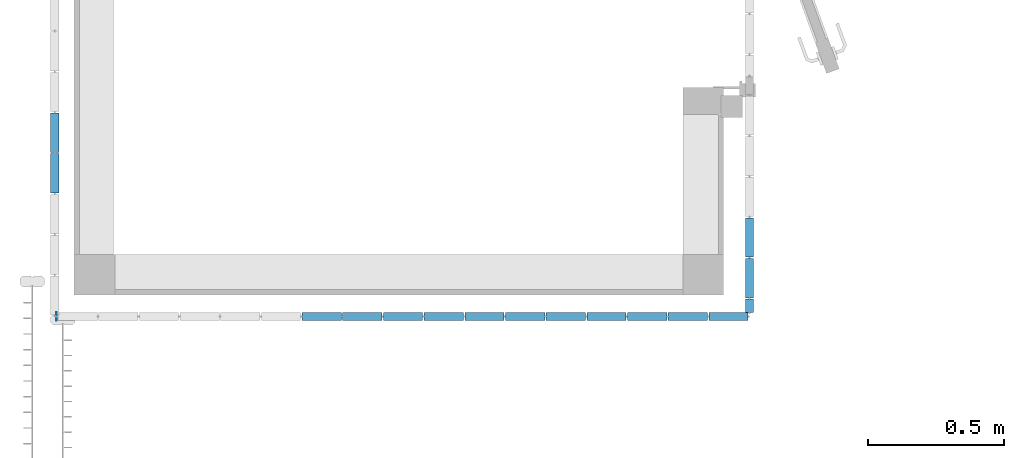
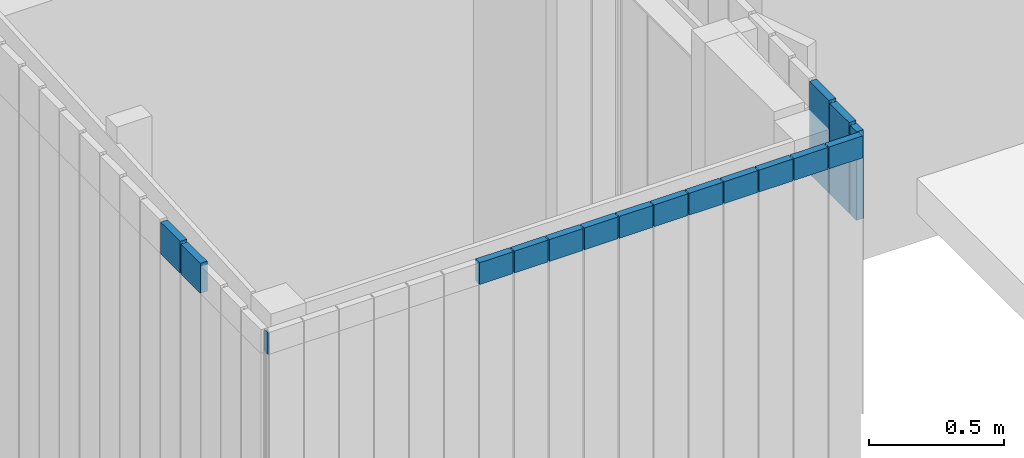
# One storey, part 71 of 81: 17 walls, 3 elements without a shape of their own.
"""IFC2X3 building model written with IfcOpenShell, lengths in metres."""

from ifc_helpers import new_model, entity, si_unit, converted_unit, derived_unit, direction, frame, frame_2d, origin, place, context, subcontext, project, spatial, rectangle, extrude, material, layer, layer_set, layer_usage, type_object, element, aggregate, save


model = new_model("IFC2X3")

# Units and contexts
model_context = context("Model", 3, precision=1e-05, world=origin(), true_north=direction((6.12303176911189e-17, 1.0)))
body_context = subcontext(model_context, "Body", "Model", "MODEL_VIEW")
ifc_project = project(units=[si_unit("LENGTHUNIT", "METRE"), si_unit("AREAUNIT", "SQUARE_METRE"), si_unit("VOLUMEUNIT", "CUBIC_METRE"), converted_unit("PLANEANGLEUNIT", "DEGREE", entity("IfcRatioMeasure", 0.0174532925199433), si_unit("PLANEANGLEUNIT", "RADIAN"), dimensions=[0, 0, 0, 0, 0, 0, 0]), si_unit("MASSUNIT", "GRAM", prefix="KILO"), derived_unit("MASSDENSITYUNIT", [(si_unit("MASSUNIT", "GRAM", prefix="KILO"), 1), (si_unit("LENGTHUNIT", "METRE"), -3)]), derived_unit("MOMENTOFINERTIAUNIT", [(si_unit("LENGTHUNIT", "METRE"), 4)]), si_unit("TIMEUNIT", "SECOND"), si_unit("FREQUENCYUNIT", "HERTZ"), si_unit("THERMODYNAMICTEMPERATUREUNIT", "DEGREE_CELSIUS"), derived_unit("THERMALTRANSMITTANCEUNIT", [(si_unit("MASSUNIT", "GRAM", prefix="KILO"), 1), (si_unit("THERMODYNAMICTEMPERATUREUNIT", "KELVIN"), -1), (si_unit("TIMEUNIT", "SECOND"), -3)]), derived_unit("VOLUMETRICFLOWRATEUNIT", [(si_unit("LENGTHUNIT", "METRE"), 3), (si_unit("TIMEUNIT", "SECOND"), -1)]), si_unit("ELECTRICCURRENTUNIT", "AMPERE"), si_unit("ELECTRICVOLTAGEUNIT", "VOLT"), si_unit("POWERUNIT", "WATT"), si_unit("FORCEUNIT", "NEWTON", prefix="KILO"), si_unit("ILLUMINANCEUNIT", "LUX"), si_unit("LUMINOUSFLUXUNIT", "LUMEN"), si_unit("LUMINOUSINTENSITYUNIT", "CANDELA"), derived_unit("USERDEFINED", [(si_unit("MASSUNIT", "GRAM", prefix="KILO"), -1), (si_unit("LENGTHUNIT", "METRE"), -2), (si_unit("TIMEUNIT", "SECOND"), 3), (si_unit("LUMINOUSFLUXUNIT", "LUMEN"), 1)]), derived_unit("LINEARVELOCITYUNIT", [(si_unit("LENGTHUNIT", "METRE"), 1), (si_unit("TIMEUNIT", "SECOND"), -1)]), si_unit("PRESSUREUNIT", "PASCAL"), derived_unit("USERDEFINED", [(si_unit("LENGTHUNIT", "METRE"), -2), (si_unit("MASSUNIT", "GRAM", prefix="KILO"), 1), (si_unit("TIMEUNIT", "SECOND"), -2)]), derived_unit("LINEARFORCEUNIT", [(si_unit("MASSUNIT", "GRAM", prefix="KILO"), 1), (si_unit("LENGTHUNIT", "METRE"), 1), (si_unit("TIMEUNIT", "SECOND"), -2), (si_unit("LENGTHUNIT", "METRE"), -1)]), derived_unit("PLANARFORCEUNIT", [(si_unit("MASSUNIT", "GRAM", prefix="KILO"), 1), (si_unit("LENGTHUNIT", "METRE"), 1), (si_unit("TIMEUNIT", "SECOND"), -2), (si_unit("LENGTHUNIT", "METRE"), -2)])], contexts=[model_context])

# Site, building, storey
site_placement = place(None, origin())
site = spatial("IfcSite", under=ifc_project, at=site_placement, Name="Surface", CompositionType="ELEMENT")
building_placement = place(site_placement, origin())
building = spatial("IfcBuilding", under=site, at=building_placement, CompositionType="ELEMENT")
storey_placement = place(building_placement, origin())
storey = spatial("IfcBuildingStorey", under=building, at=storey_placement, Name="01 RDC", CompositionType="ELEMENT", Elevation=-1.94916083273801e-14)

# Curtain wall, walls
curtain_wall_type = type_object("IfcCurtainWallType", Name="Mur-rideau:1m x 2m", PredefinedType="NOTDEFINED")
curtain_wall_1_placement = place(storey_placement, origin())
curtain_wall_1 = element("IfcCurtainWall", 1, at=curtain_wall_1_placement, inside=storey, type_object=curtain_wall_type, Name="Mur-rideau:1m x 2m", ObjectType="Mur-rideau:1m x 2m")
ifc_material = material(Name="Résineux, bois de construction")
ifc_layer = layer(ifc_material, 0.03)
ifc_layer_set = layer_set([ifc_layer], Name="Mur-rideau:1m x 2m")
ifc_layer_usage_1 = layer_usage(ifc_layer_set, "AXIS2", "NEGATIVE", 0.015)
wall_type = type_object("IfcWallType", Name="Mur de base:Panneau Triply 30 mm", PredefinedType="NOTDEFINED", material=ifc_layer_set)
wall_1_placement = place(storey_placement, frame((8.02156158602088, -5.94595163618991, 2.0), z_axis=(0.0, 0.0, 1.0), x_axis=(0.0, -1.0, 0.0)))
wall_1 = element("IfcWallStandardCase", 2, at=wall_1_placement, type_object=wall_type, material=ifc_layer_usage_1, Name="Mur de base:Panneau Triply 30 mm", ObjectType="Mur de base:Panneau Triply 30 mm", context=body_context, shape_type="SweptSolid", body=[
    extrude(rectangle(XDim=0.145018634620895, YDim=0.0299999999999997, at=frame_2d((0.0725093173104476, 1.17961196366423e-16), x_axis=(-1.0, 0.0))), origin(), (0.0, 0.0, 1.0), 0.421014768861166),
])
ifc_layer_usage_2 = layer_usage(ifc_layer_set, "AXIS2", "NEGATIVE", 0.015)
wall_2_placement = place(storey_placement, frame((8.02156158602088, -6.09595163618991, 2.0), z_axis=(0.0, 0.0, 1.0), x_axis=(0.0, -1.0, 0.0)))
wall_2 = element("IfcWallStandardCase", 3, at=wall_2_placement, type_object=wall_type, material=ifc_layer_usage_2, Name="Mur de base:Panneau Triply 30 mm", ObjectType="Mur de base:Panneau Triply 30 mm", context=body_context, shape_type="SweptSolid", body=[
    extrude(rectangle(XDim=0.145018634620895, YDim=0.0299999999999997, at=frame_2d((0.0725093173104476, -4.24139889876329e-16), x_axis=(-1.0, 0.0))), origin(), (0.0, 0.0, 1.0), 0.411840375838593),
])
ifc_layer_usage_3 = layer_usage(ifc_layer_set, "AXIS2", "NEGATIVE", 0.015)
wall_3_placement = place(storey_placement, frame((8.02156158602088, -6.24595163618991, 2.0), z_axis=(0.0, 0.0, 1.0), x_axis=(0.0, -1.0, 0.0)))
wall_3 = element("IfcWallStandardCase", 4, at=wall_3_placement, type_object=wall_type, material=ifc_layer_usage_3, Name="Mur de base:Panneau Triply 30 mm", ObjectType="Mur de base:Panneau Triply 30 mm", context=body_context, shape_type="SweptSolid", body=[
    extrude(rectangle(XDim=0.0487593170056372, YDim=0.0299999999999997, at=frame_2d((0.0243796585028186, 3.90312782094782e-17), x_axis=(-1.0, 0.0))), origin(), (0.0, 0.0, 1.0), 0.40266598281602),
])
aggregate(curtain_wall_1, [wall_1, wall_2, wall_3])

curtain_wall_2_placement = place(storey_placement, origin())
curtain_wall_2 = element("IfcCurtainWall", 5, at=curtain_wall_2_placement, inside=storey, type_object=curtain_wall_type, Name="Mur-rideau:1m x 2m", ObjectType="Mur-rideau:1m x 2m")
ifc_layer_usage_4 = layer_usage(ifc_layer_set, "AXIS2", "POSITIVE", -0.015)
wall_4_placement = place(storey_placement, frame((5.45983615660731, -5.8547202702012, 2.3), z_axis=(0.0, 0.0, 1.0), x_axis=(0.0, 1.0, 0.0)))
wall_4 = element("IfcWallStandardCase", 6, at=wall_4_placement, type_object=wall_type, material=ifc_layer_usage_4, Name="Mur de base:Panneau Triply 30 mm", ObjectType="Mur de base:Panneau Triply 30 mm", context=body_context, shape_type="SweptSolid", body=[
    extrude(rectangle(XDim=0.145018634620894, YDim=0.0299999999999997, at=frame_2d((0.072509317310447, 1.24032728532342e-16), x_axis=(-1.0, 0.0))), origin(), (0.0, 0.0, 1.0), 0.135464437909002),
])
ifc_layer_usage_5 = layer_usage(ifc_layer_set, "AXIS2", "POSITIVE", -0.015)
wall_5_placement = place(storey_placement, frame((5.45983615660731, -5.7047202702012, 2.3), z_axis=(0.0, 0.0, 1.0), x_axis=(0.0, 1.0, 0.0)))
wall_5 = element("IfcWallStandardCase", 7, at=wall_5_placement, type_object=wall_type, material=ifc_layer_usage_5, Name="Mur de base:Panneau Triply 30 mm", ObjectType="Mur de base:Panneau Triply 30 mm", context=body_context, shape_type="SweptSolid", body=[
    extrude(rectangle(XDim=0.145018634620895, YDim=0.0299999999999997, at=frame_2d((0.0725093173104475, 1.24032728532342e-16), x_axis=(-1.0, 0.0))), origin(), (0.0, 0.0, 1.0), 0.144638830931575),
])
aggregate(curtain_wall_2, [wall_4, wall_5])

curtain_wall_3_placement = place(storey_placement, origin())
curtain_wall_3 = element("IfcCurtainWall", 8, at=curtain_wall_3_placement, inside=storey, type_object=curtain_wall_type, Name="Mur-rideau:1m x 2m", ObjectType="Mur-rideau:1m x 2m")
ifc_layer_usage_6 = layer_usage(ifc_layer_set, "AXIS2", "POSITIVE", -0.015)
wall_6_placement = place(storey_placement, frame((8.01656158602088, -6.30971095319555, 2.29999999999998), z_axis=(0.0, 0.0, 1.0), x_axis=(-1.0, 0.0, 0.0)))
wall_6 = element("IfcWallStandardCase", 9, at=wall_6_placement, type_object=wall_type, material=ifc_layer_usage_6, Name="Mur de base:Panneau Triply 30 mm", ObjectType="Mur de base:Panneau Triply 30 mm", context=body_context, shape_type="SweptSolid", body=[
    extrude(rectangle(XDim=0.1450000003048, YDim=0.0299999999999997, at=frame_2d((0.0725000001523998, 2.25514051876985e-16), x_axis=(-1.0, 0.0))), origin(), (0.0, 0.0, 1.0), 0.0992255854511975),
])
ifc_layer_usage_7 = layer_usage(ifc_layer_set, "AXIS2", "POSITIVE", -0.015)
wall_7_placement = place(storey_placement, frame((7.86656158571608, -6.30971095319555, 2.29999999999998), z_axis=(0.0, 0.0, 1.0), x_axis=(-1.0, 0.0, 0.0)))
wall_7 = element("IfcWallStandardCase", 10, at=wall_7_placement, type_object=wall_type, material=ifc_layer_usage_7, Name="Mur de base:Panneau Triply 30 mm", ObjectType="Mur de base:Panneau Triply 30 mm", context=body_context, shape_type="SweptSolid", body=[
    extrude(rectangle(XDim=0.144999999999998, YDim=0.0299999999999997, at=frame_2d((0.0724999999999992, -3.15719672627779e-16), x_axis=(-1.0, 0.0))), origin(), (0.0, 0.0, 1.0), 0.0992255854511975),
])
ifc_layer_usage_8 = layer_usage(ifc_layer_set, "AXIS2", "POSITIVE", -0.015)
wall_8_placement = place(storey_placement, frame((7.71656158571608, -6.30971095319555, 2.29999999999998), z_axis=(0.0, 0.0, 1.0), x_axis=(-1.0, 0.0, 0.0)))
wall_8 = element("IfcWallStandardCase", 11, at=wall_8_placement, type_object=wall_type, material=ifc_layer_usage_8, Name="Mur de base:Panneau Triply 30 mm", ObjectType="Mur de base:Panneau Triply 30 mm", context=body_context, shape_type="SweptSolid", body=[
    extrude(rectangle(XDim=0.145, YDim=0.0299999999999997, at=frame_2d((0.0724999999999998, 2.25514051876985e-16), x_axis=(-1.0, 0.0))), origin(), (0.0, 0.0, 1.0), 0.0992255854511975),
])
ifc_layer_usage_9 = layer_usage(ifc_layer_set, "AXIS2", "POSITIVE", -0.015)
wall_9_placement = place(storey_placement, frame((7.56656158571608, -6.30971095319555, 2.29999999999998), z_axis=(0.0, 0.0, 1.0), x_axis=(-1.0, 0.0, 0.0)))
wall_9 = element("IfcWallStandardCase", 12, at=wall_9_placement, type_object=wall_type, material=ifc_layer_usage_9, Name="Mur de base:Panneau Triply 30 mm", ObjectType="Mur de base:Panneau Triply 30 mm", context=body_context, shape_type="SweptSolid", body=[
    extrude(rectangle(XDim=0.144999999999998, YDim=0.0299999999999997, at=frame_2d((0.0724999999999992, -3.15719672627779e-16), x_axis=(-1.0, 0.0))), origin(), (0.0, 0.0, 1.0), 0.0992255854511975),
])
ifc_layer_usage_10 = layer_usage(ifc_layer_set, "AXIS2", "POSITIVE", -0.015)
wall_10_placement = place(storey_placement, frame((7.41656158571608, -6.30971095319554, 2.29999999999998), z_axis=(0.0, 0.0, 1.0), x_axis=(-1.0, 0.0, 0.0)))
wall_10 = element("IfcWallStandardCase", 13, at=wall_10_placement, type_object=wall_type, material=ifc_layer_usage_10, Name="Mur de base:Panneau Triply 30 mm", ObjectType="Mur de base:Panneau Triply 30 mm", context=body_context, shape_type="SweptSolid", body=[
    extrude(rectangle(XDim=0.145, YDim=0.0299999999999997, at=frame_2d((0.0724999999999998, 2.25514051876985e-16), x_axis=(-1.0, 0.0))), origin(), (0.0, 0.0, 1.0), 0.0992255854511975),
])
ifc_layer_usage_11 = layer_usage(ifc_layer_set, "AXIS2", "POSITIVE", -0.015)
wall_11_placement = place(storey_placement, frame((7.26656158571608, -6.30971095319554, 2.29999999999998), z_axis=(0.0, 0.0, 1.0), x_axis=(-1.0, 0.0, 0.0)))
wall_11 = element("IfcWallStandardCase", 14, at=wall_11_placement, type_object=wall_type, material=ifc_layer_usage_11, Name="Mur de base:Panneau Triply 30 mm", ObjectType="Mur de base:Panneau Triply 30 mm", context=body_context, shape_type="SweptSolid", body=[
    extrude(rectangle(XDim=0.144999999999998, YDim=0.0299999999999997, at=frame_2d((0.0724999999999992, 2.25514051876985e-16), x_axis=(-1.0, 0.0))), origin(), (0.0, 0.0, 1.0), 0.0992255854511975),
])
ifc_layer_usage_12 = layer_usage(ifc_layer_set, "AXIS2", "POSITIVE", -0.015)
wall_12_placement = place(storey_placement, frame((7.11656158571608, -6.30971095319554, 2.29999999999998), z_axis=(0.0, 0.0, 1.0), x_axis=(-1.0, 0.0, 0.0)))
wall_12 = element("IfcWallStandardCase", 15, at=wall_12_placement, type_object=wall_type, material=ifc_layer_usage_12, Name="Mur de base:Panneau Triply 30 mm", ObjectType="Mur de base:Panneau Triply 30 mm", context=body_context, shape_type="SweptSolid", body=[
    extrude(rectangle(XDim=0.145, YDim=0.0299999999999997, at=frame_2d((0.0724999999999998, -3.15719672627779e-16), x_axis=(-1.0, 0.0))), origin(), (0.0, 0.0, 1.0), 0.0992255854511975),
])
ifc_layer_usage_13 = layer_usage(ifc_layer_set, "AXIS2", "POSITIVE", -0.015)
wall_13_placement = place(storey_placement, frame((6.96656158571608, -6.30971095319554, 2.29999999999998), z_axis=(0.0, 0.0, 1.0), x_axis=(-1.0, 0.0, 0.0)))
wall_13 = element("IfcWallStandardCase", 16, at=wall_13_placement, type_object=wall_type, material=ifc_layer_usage_13, Name="Mur de base:Panneau Triply 30 mm", ObjectType="Mur de base:Panneau Triply 30 mm", context=body_context, shape_type="SweptSolid", body=[
    extrude(rectangle(XDim=0.144999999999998, YDim=0.0299999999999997, at=frame_2d((0.0724999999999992, 2.25514051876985e-16), x_axis=(-1.0, 0.0))), origin(), (0.0, 0.0, 1.0), 0.0992255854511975),
])
ifc_layer_usage_14 = layer_usage(ifc_layer_set, "AXIS2", "POSITIVE", -0.015)
wall_14_placement = place(storey_placement, frame((6.81656158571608, -6.30971095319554, 2.29999999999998), z_axis=(0.0, 0.0, 1.0), x_axis=(-1.0, 0.0, 0.0)))
wall_14 = element("IfcWallStandardCase", 17, at=wall_14_placement, type_object=wall_type, material=ifc_layer_usage_14, Name="Mur de base:Panneau Triply 30 mm", ObjectType="Mur de base:Panneau Triply 30 mm", context=body_context, shape_type="SweptSolid", body=[
    extrude(rectangle(XDim=0.145, YDim=0.0299999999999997, at=frame_2d((0.0724999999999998, -3.15719672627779e-16), x_axis=(-1.0, 0.0))), origin(), (0.0, 0.0, 1.0), 0.0992255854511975),
])
ifc_layer_usage_15 = layer_usage(ifc_layer_set, "AXIS2", "POSITIVE", -0.015)
wall_15_placement = place(storey_placement, frame((6.66656158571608, -6.30971095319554, 2.29999999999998), z_axis=(0.0, 0.0, 1.0), x_axis=(-1.0, 0.0, 0.0)))
wall_15 = element("IfcWallStandardCase", 18, at=wall_15_placement, type_object=wall_type, material=ifc_layer_usage_15, Name="Mur de base:Panneau Triply 30 mm", ObjectType="Mur de base:Panneau Triply 30 mm", context=body_context, shape_type="SweptSolid", body=[
    extrude(rectangle(XDim=0.144999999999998, YDim=0.0299999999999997, at=frame_2d((0.0724999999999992, 2.25514051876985e-16), x_axis=(-1.0, 0.0))), origin(), (0.0, 0.0, 1.0), 0.0992255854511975),
])
ifc_layer_usage_16 = layer_usage(ifc_layer_set, "AXIS2", "POSITIVE", -0.015)
wall_16_placement = place(storey_placement, frame((6.51656158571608, -6.30971095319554, 2.29999999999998), z_axis=(0.0, 0.0, 1.0), x_axis=(-1.0, 0.0, 0.0)))
wall_16 = element("IfcWallStandardCase", 19, at=wall_16_placement, type_object=wall_type, material=ifc_layer_usage_16, Name="Mur de base:Panneau Triply 30 mm", ObjectType="Mur de base:Panneau Triply 30 mm", context=body_context, shape_type="SweptSolid", body=[
    extrude(rectangle(XDim=0.145, YDim=0.0299999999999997, at=frame_2d((0.0724999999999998, -3.15719672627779e-16), x_axis=(-1.0, 0.0))), origin(), (0.0, 0.0, 1.0), 0.0992255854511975),
])
ifc_layer_usage_17 = layer_usage(ifc_layer_set, "AXIS2", "POSITIVE", -0.015)
wall_17_placement = place(storey_placement, frame((5.46656158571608, -6.30971095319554, 2.29999999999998), z_axis=(0.0, 0.0, 1.0), x_axis=(-1.0, 0.0, 0.0)))
wall_17 = element("IfcWallStandardCase", 20, at=wall_17_placement, type_object=wall_type, material=ifc_layer_usage_17, Name="Mur de base:Panneau Triply 30 mm", ObjectType="Mur de base:Panneau Triply 30 mm", context=body_context, shape_type="SweptSolid", body=[
    extrude(rectangle(XDim=0.0017254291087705, YDim=0.0299999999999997, at=frame_2d((0.000862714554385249, 3.46944695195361e-18), x_axis=(-1.0, 0.0))), origin(), (0.0, 0.0, 1.0), 0.0992255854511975),
])
aggregate(curtain_wall_3, [wall_6, wall_7, wall_8, wall_9, wall_10, wall_11, wall_12, wall_13, wall_14, wall_15, wall_16, wall_17])

save(model, "model.ifc")
